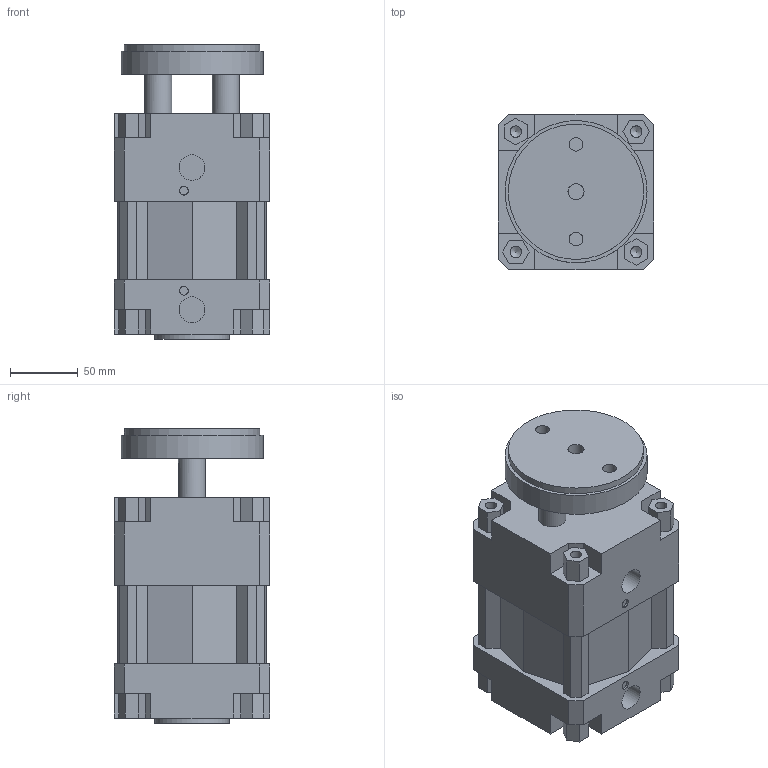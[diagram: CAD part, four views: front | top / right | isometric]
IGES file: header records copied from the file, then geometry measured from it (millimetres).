
Global section: file name: 134#_100_0000_01; native system: Autodesk Inventor 2014; preprocessor: unknown; author: A. Manieri; date: 20161006.165240; units: millimetre
Bounding box: 115 x 115 x 218 mm (x, y, z)
Volume: 2104925.7 mm3; surface area: 231866 mm2
Topology: 2 solids, 2 shells, 180 faces, 491 edges, 335 vertices
Faces by surface type: bspline 180
